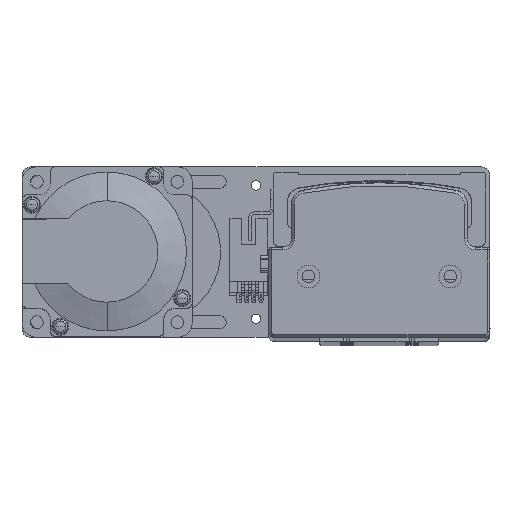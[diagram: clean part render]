
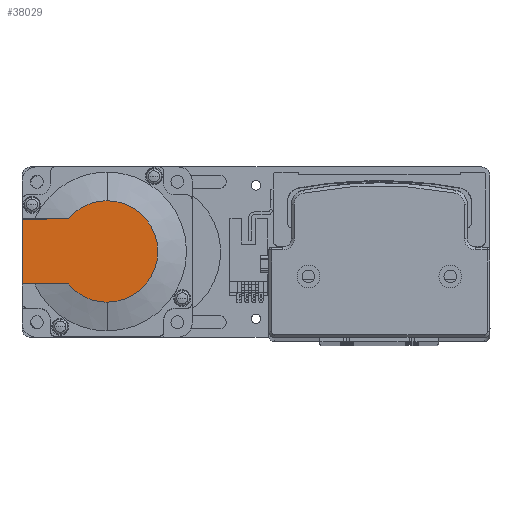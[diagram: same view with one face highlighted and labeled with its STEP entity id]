
A CAD part, top view. The second image highlights one B-rep face of the part: STEP entity #38029.
In plain terms, the highlighted planar face has unit normal (0, 0, 1) as drawn and (-1, 0, 0) by its records, which use the part's own axes.
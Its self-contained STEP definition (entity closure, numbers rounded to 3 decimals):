
#85 = VECTOR ( 'NONE', #22917, 1000. ) ;
#2334 = EDGE_CURVE ( 'NONE', #3801, #24639, #47461, .T. ) ;
#3801 = VERTEX_POINT ( 'NONE', #12207 ) ;
#5240 = FACE_OUTER_BOUND ( 'NONE', #37684, .T. ) ;
#6106 = CARTESIAN_POINT ( 'NONE',  ( -118.5, -8.941, 0. ) ) ;
#7270 = EDGE_CURVE ( 'NONE', #43614, #46894, #50717, .T. ) ;
#7851 = EDGE_CURVE ( 'NONE', #32932, #3801, #45233, .T. ) ;
#9046 = DIRECTION ( 'NONE',  ( -1., 0., 0. ) ) ;
#9988 = CARTESIAN_POINT ( 'NONE',  ( -118.5, -8.941, -11.45 ) ) ;
#10023 = DIRECTION ( 'NONE',  ( 0., 0., 1. ) ) ;
#11232 = ORIENTED_EDGE ( 'NONE', *, *, #7851, .T. ) ;
#11764 = LINE ( 'NONE', #30790, #85 ) ;
#12207 = CARTESIAN_POINT ( 'NONE',  ( -118.5, 0., 17.881 ) ) ;
#12434 = ORIENTED_EDGE ( 'NONE', *, *, #7270, .T. ) ;
#12627 = ORIENTED_EDGE ( 'NONE', *, *, #14877, .F. ) ;
#13735 = VECTOR ( 'NONE', #41543, 1000. ) ;
#14877 = EDGE_CURVE ( 'NONE', #23759, #24639, #24080, .T. ) ;
#15255 = CARTESIAN_POINT ( 'NONE',  ( -118.5, 13.735, -11.45 ) ) ;
#17968 = AXIS2_PLACEMENT_3D ( 'NONE', #6106, #33401, #10023 ) ;
#18951 = AXIS2_PLACEMENT_3D ( 'NONE', #43520, #20117, #47474 ) ;
#20117 = DIRECTION ( 'NONE',  ( -1., 0., 0. ) ) ;
#20678 = CARTESIAN_POINT ( 'NONE',  ( -118.5, 0., 0. ) ) ;
#22058 = EDGE_CURVE ( 'NONE', #46894, #32932, #34019, .T. ) ;
#22917 = DIRECTION ( 'NONE',  ( 0., 0., 1. ) ) ;
#23759 = VERTEX_POINT ( 'NONE', #24758 ) ;
#24080 = LINE ( 'NONE', #37630, #13735 ) ;
#24597 = DIRECTION ( 'NONE',  ( 0., 0., -1. ) ) ;
#24639 = VERTEX_POINT ( 'NONE', #44934 ) ;
#24758 = CARTESIAN_POINT ( 'NONE',  ( -118.5, 30., 11.45 ) ) ;
#25085 = ORIENTED_EDGE ( 'NONE', *, *, #32274, .F. ) ;
#25450 = AXIS2_PLACEMENT_3D ( 'NONE', #32408, #9046, #36401 ) ;
#26032 = AXIS2_PLACEMENT_3D ( 'NONE', #20678, #48036, #24597 ) ;
#29870 = VECTOR ( 'NONE', #37324, 1000. ) ;
#30790 = CARTESIAN_POINT ( 'NONE',  ( -118.5, 30., 25. ) ) ;
#32274 = EDGE_CURVE ( 'NONE', #43614, #23759, #11764, .T. ) ;
#32408 = CARTESIAN_POINT ( 'NONE',  ( -118.5, 0., 0. ) ) ;
#32932 = VERTEX_POINT ( 'NONE', #35710 ) ;
#33401 = DIRECTION ( 'NONE',  ( -1., 0., 0. ) ) ;
#34019 = CIRCLE ( 'NONE', #25450, 17.881 ) ;
#35710 = CARTESIAN_POINT ( 'NONE',  ( -118.5, 0., -17.881 ) ) ;
#36401 = DIRECTION ( 'NONE',  ( 0., 0., -1. ) ) ;
#36549 = ORIENTED_EDGE ( 'NONE', *, *, #22058, .T. ) ;
#37180 = CARTESIAN_POINT ( 'NONE',  ( -118.5, 30., -11.45 ) ) ;
#37324 = DIRECTION ( 'NONE',  ( 0., -1., 0. ) ) ;
#37630 = CARTESIAN_POINT ( 'NONE',  ( -118.5, 0., 11.45 ) ) ;
#37684 = EDGE_LOOP ( 'NONE', ( #12434, #36549, #11232, #44311, #12627, #25085 ) ) ;
#38029 = ADVANCED_FACE ( 'NONE', ( #5240 ), #48787, .T. ) ;
#41543 = DIRECTION ( 'NONE',  ( 0., -1., 0. ) ) ;
#43520 = CARTESIAN_POINT ( 'NONE',  ( -118.5, 0., 0. ) ) ;
#43614 = VERTEX_POINT ( 'NONE', #37180 ) ;
#44311 = ORIENTED_EDGE ( 'NONE', *, *, #2334, .T. ) ;
#44934 = CARTESIAN_POINT ( 'NONE',  ( -118.5, 13.735, 11.45 ) ) ;
#45233 = CIRCLE ( 'NONE', #26032, 17.881 ) ;
#46894 = VERTEX_POINT ( 'NONE', #15255 ) ;
#47461 = CIRCLE ( 'NONE', #18951, 17.881 ) ;
#47474 = DIRECTION ( 'NONE',  ( 0., 0., -1. ) ) ;
#48036 = DIRECTION ( 'NONE',  ( -1., 0., 0. ) ) ;
#48787 = PLANE ( 'NONE',  #17968 ) ;
#50717 = LINE ( 'NONE', #9988, #29870 ) ;
